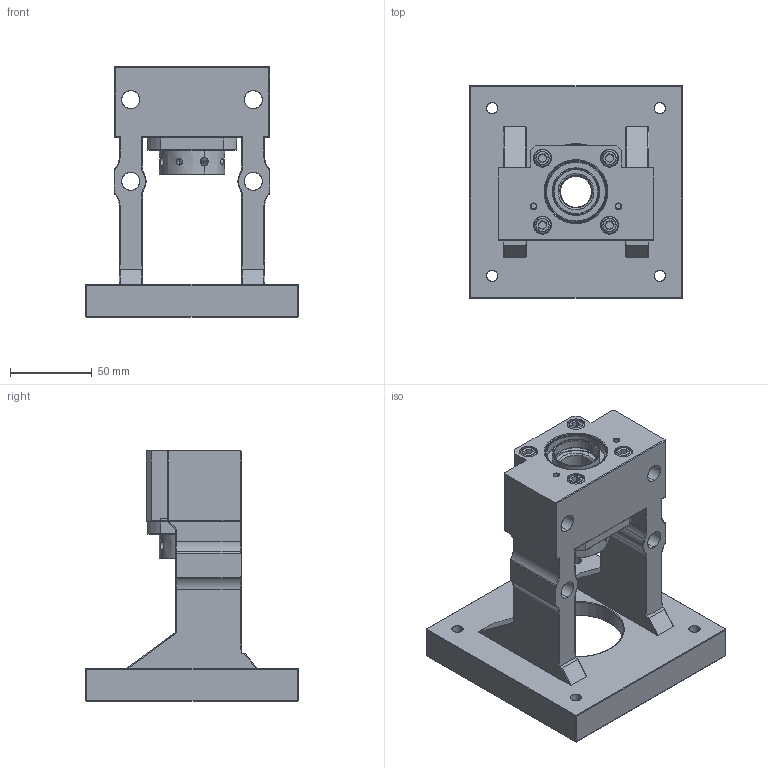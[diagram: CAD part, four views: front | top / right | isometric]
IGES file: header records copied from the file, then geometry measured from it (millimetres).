
Start section: SolidWorks IGES file using analytic representation for surfaces
Global section: file name: C:\Users\117\Desktop\1061208網站3D圖檔問題處理\傳動座\整合型\MBCS(F)\MBCS20\MBCS20-G.IGS,15HSolidWorks; native system: 2017; preprocessor: SolidWorks 2017; author: 117; date: 171228.155328; units: millimetre
Bounding box: 130 x 130 x 153 mm (x, y, z)
Surface area: 109224.3 mm2 (no closed solid volume)
Topology: 0 solids, 0 shells, 376 faces, 5830 edges, 5804 vertices
Faces by surface type: revolution 226, bspline 150
